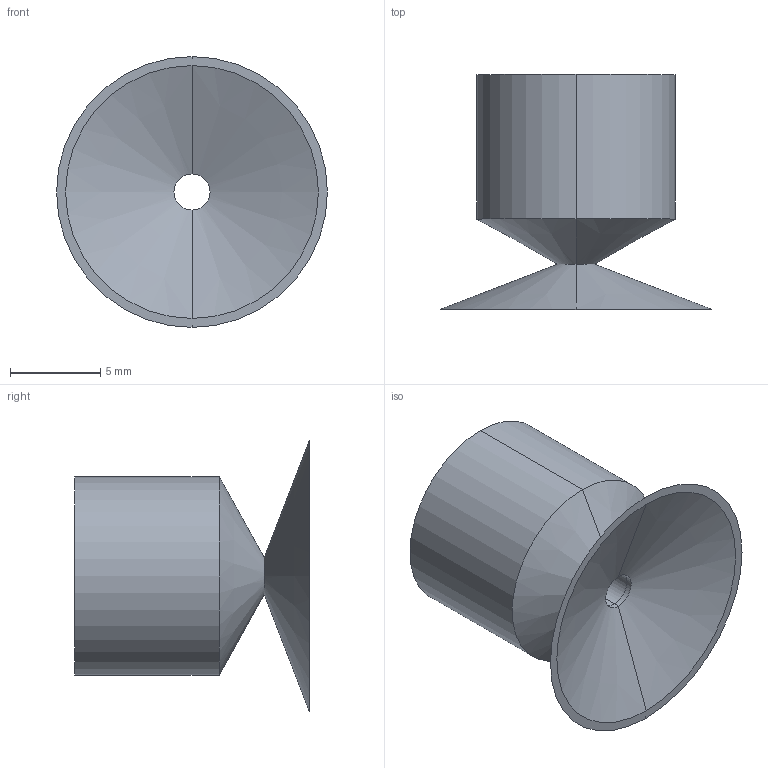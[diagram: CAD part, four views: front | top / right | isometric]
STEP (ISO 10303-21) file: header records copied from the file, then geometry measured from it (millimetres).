
FILE_DESCRIPTION (( 'STEP AP214' ), '1' );
FILE_NAME ('VSH-S15.STEP', '2019-11-30T08:35:05', ( '微软用户' ), ( '微软中国' ), 'SwSTEP 2.0', 'SolidWorks 2016', '' );
FILE_SCHEMA (( 'AUTOMOTIVE_DESIGN' ));
Length unit declared in the file: millimetre
Products named in the file (1): VSH-S15
Bounding box: 15 x 13 x 15 mm (x, y, z)
Volume: 719.8 mm3; surface area: 1011.7 mm2
Topology: 2 solids, 2 shells, 20 faces, 40 edges, 24 vertices
Faces by surface type: cylinder 10, cone 6, plane 4
Entity records: 575 total; most frequent: DIRECTION 106, CARTESIAN_POINT 85, ORIENTED_EDGE 80, AXIS2_PLACEMENT_3D 45, EDGE_CURVE 40, EDGE_LOOP 24, VERTEX_POINT 24, CIRCLE 24
